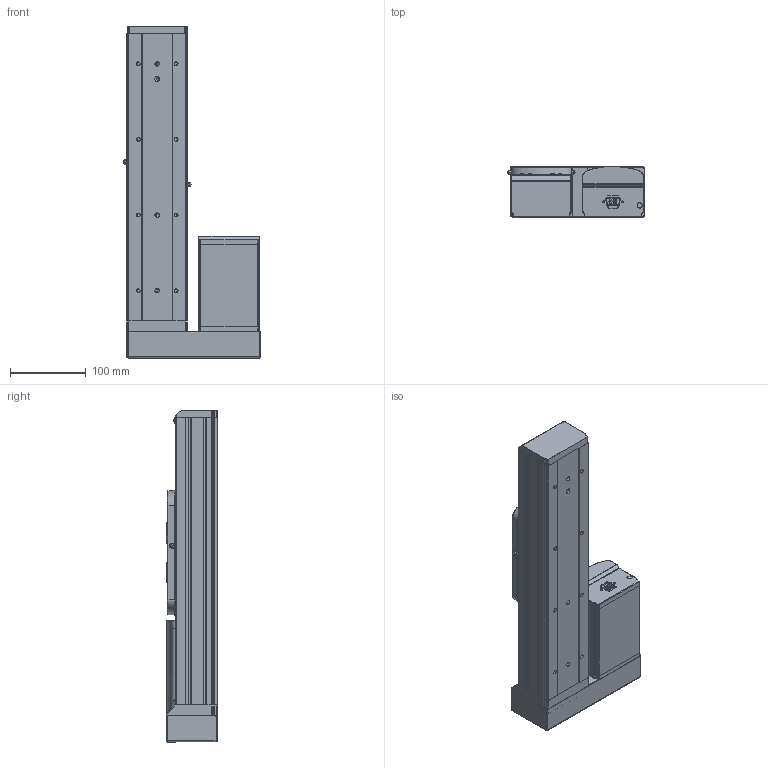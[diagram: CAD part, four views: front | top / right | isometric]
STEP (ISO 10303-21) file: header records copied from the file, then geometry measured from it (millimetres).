
FILE_DESCRIPTION (( 'STEP AP203' ), '1' );
FILE_NAME ('GERC80-200-FLXD.STEP', '2020-05-21T11:04:30', ( '' ), ( '' ), 'SwSTEP 2.0', 'SolidWorks 2019', '' );
FILE_SCHEMA (( 'CONFIG_CONTROL_DESIGN' ));
Length unit declared in the file: millimetre
Products named in the file (3): Group2^GERC80-200-FLXD_defeature_GMT; GERC80-200-FLXD; Group1^GERC80-200-FLXD_defeature_GMT
Assembly tree (2 placements, depth 2):
  GERC80-200-FLXD
    Group1^GERC80-200-FLXD_defeature_GMT
    Group2^GERC80-200-FLXD_defeature_GMT
Bounding box: 182 x 67.5 x 439 mm (x, y, z)
Volume: 1826315.8 mm3; surface area: 471218.3 mm2
Topology: 31 solids, 31 shells, 2285 faces, 6156 edges, 3866 vertices
Faces by surface type: plane 1000, cylinder 749, cone 202, bspline 154, torus 100, sphere 80
Entity records: 141713 total; most frequent: CARTESIAN_POINT 86681, ORIENTED_EDGE 12014, DIRECTION 11081, EDGE_CURVE 6007, AXIS2_PLACEMENT_3D 4028, VERTEX_POINT 3796, VECTOR 3025, LINE 3025
